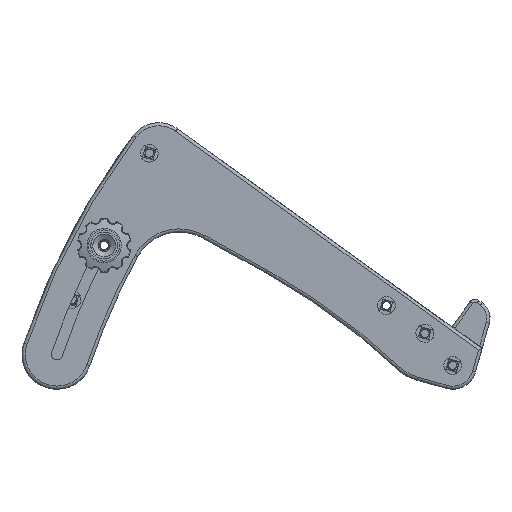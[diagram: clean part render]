
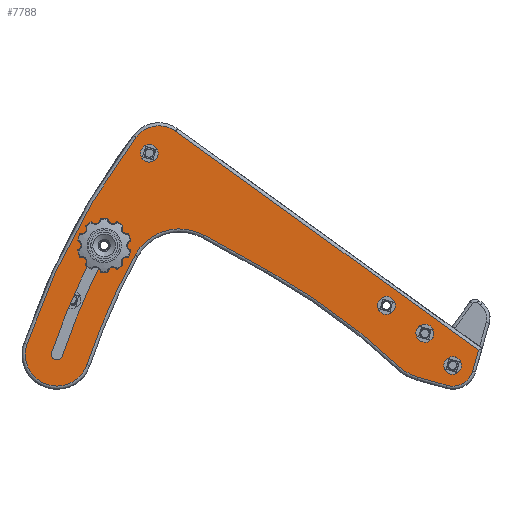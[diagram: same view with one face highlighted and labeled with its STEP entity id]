
A CAD part, left-side view. The second image highlights one B-rep face of the part: STEP entity #7788.
In plain terms, the highlighted planar face has unit normal (-1, 0, 0).
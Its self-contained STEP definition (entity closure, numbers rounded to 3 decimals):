
#233=FACE_BOUND('',#1056,.T.);
#234=FACE_BOUND('',#1057,.T.);
#235=FACE_BOUND('',#1058,.T.);
#236=FACE_BOUND('',#1059,.T.);
#237=FACE_BOUND('',#1060,.T.);
#280=PLANE('',#8334);
#557=FACE_OUTER_BOUND('',#1055,.T.);
#1055=EDGE_LOOP('',(#5308,#5309,#5310,#5311,#5312,#5313,#5314,#5315,#5316,
#5317,#5318,#5319));
#1056=EDGE_LOOP('',(#5320,#5321,#5322,#5323));
#1057=EDGE_LOOP('',(#5324));
#1058=EDGE_LOOP('',(#5325));
#1059=EDGE_LOOP('',(#5326));
#1060=EDGE_LOOP('',(#5327));
#1588=CIRCLE('',#8285,9.);
#1591=CIRCLE('',#8289,232.787);
#1594=CIRCLE('',#8293,10.);
#1597=CIRCLE('',#8297,212.787);
#1600=CIRCLE('',#8301,16.);
#1604=CIRCLE('',#8307,198.);
#1607=CIRCLE('',#8311,15.5);
#1611=CIRCLE('',#8317,6.5);
#1621=CIRCLE('',#8335,224.537);
#1622=CIRCLE('',#8336,1.75);
#1623=CIRCLE('',#8337,221.037);
#1624=CIRCLE('',#8338,1.75);
#1625=CIRCLE('',#8339,2.8);
#1626=CIRCLE('',#8340,2.8);
#1627=CIRCLE('',#8341,2.85);
#1628=CIRCLE('',#8342,2.85);
#2087=LINE('',#11826,#2698);
#2088=LINE('',#11862,#2699);
#2090=LINE('',#11880,#2701);
#2092=LINE('',#11889,#2703);
#2698=VECTOR('',#9263,10.);
#2699=VECTOR('',#9310,10.);
#2701=VECTOR('',#9332,10.);
#2703=VECTOR('',#9344,10.);
#3310=VERTEX_POINT('',#11823);
#3311=VERTEX_POINT('',#11825);
#3313=VERTEX_POINT('',#11830);
#3315=VERTEX_POINT('',#11836);
#3317=VERTEX_POINT('',#11842);
#3319=VERTEX_POINT('',#11848);
#3321=VERTEX_POINT('',#11854);
#3323=VERTEX_POINT('',#11860);
#3325=VERTEX_POINT('',#11866);
#3327=VERTEX_POINT('',#11872);
#3329=VERTEX_POINT('',#11878);
#3331=VERTEX_POINT('',#11884);
#3349=VERTEX_POINT('',#11938);
#3350=VERTEX_POINT('',#11939);
#3351=VERTEX_POINT('',#11941);
#3352=VERTEX_POINT('',#11943);
#3353=VERTEX_POINT('',#11946);
#3354=VERTEX_POINT('',#11948);
#3355=VERTEX_POINT('',#11950);
#3356=VERTEX_POINT('',#11952);
#4035=EDGE_CURVE('',#3310,#3311,#2087,.T.);
#4038=EDGE_CURVE('',#3313,#3310,#1588,.T.);
#4041=EDGE_CURVE('',#3315,#3313,#1591,.T.);
#4044=EDGE_CURVE('',#3317,#3315,#1594,.T.);
#4047=EDGE_CURVE('',#3319,#3317,#1597,.T.);
#4050=EDGE_CURVE('',#3321,#3319,#1600,.T.);
#4053=EDGE_CURVE('',#3323,#3321,#2088,.T.);
#4056=EDGE_CURVE('',#3325,#3323,#1604,.T.);
#4059=EDGE_CURVE('',#3327,#3325,#1607,.T.);
#4062=EDGE_CURVE('',#3329,#3327,#2090,.T.);
#4065=EDGE_CURVE('',#3331,#3329,#1611,.T.);
#4067=EDGE_CURVE('',#3311,#3331,#2092,.T.);
#4092=EDGE_CURVE('',#3349,#3350,#1621,.T.);
#4093=EDGE_CURVE('',#3351,#3350,#1622,.T.);
#4094=EDGE_CURVE('',#3351,#3352,#1623,.T.);
#4095=EDGE_CURVE('',#3352,#3349,#1624,.T.);
#4096=EDGE_CURVE('',#3353,#3353,#1625,.T.);
#4097=EDGE_CURVE('',#3354,#3354,#1626,.T.);
#4098=EDGE_CURVE('',#3355,#3355,#1627,.T.);
#4099=EDGE_CURVE('',#3356,#3356,#1628,.T.);
#5308=ORIENTED_EDGE('',*,*,#4035,.F.);
#5309=ORIENTED_EDGE('',*,*,#4038,.F.);
#5310=ORIENTED_EDGE('',*,*,#4041,.F.);
#5311=ORIENTED_EDGE('',*,*,#4044,.F.);
#5312=ORIENTED_EDGE('',*,*,#4047,.F.);
#5313=ORIENTED_EDGE('',*,*,#4050,.F.);
#5314=ORIENTED_EDGE('',*,*,#4053,.F.);
#5315=ORIENTED_EDGE('',*,*,#4056,.F.);
#5316=ORIENTED_EDGE('',*,*,#4059,.F.);
#5317=ORIENTED_EDGE('',*,*,#4062,.F.);
#5318=ORIENTED_EDGE('',*,*,#4065,.F.);
#5319=ORIENTED_EDGE('',*,*,#4067,.F.);
#5320=ORIENTED_EDGE('',*,*,#4092,.T.);
#5321=ORIENTED_EDGE('',*,*,#4093,.F.);
#5322=ORIENTED_EDGE('',*,*,#4094,.T.);
#5323=ORIENTED_EDGE('',*,*,#4095,.T.);
#5324=ORIENTED_EDGE('',*,*,#4096,.T.);
#5325=ORIENTED_EDGE('',*,*,#4097,.T.);
#5326=ORIENTED_EDGE('',*,*,#4098,.T.);
#5327=ORIENTED_EDGE('',*,*,#4099,.T.);
#7788=ADVANCED_FACE('',(#557,#233,#234,#235,#236,#237),#280,.F.);
#8285=AXIS2_PLACEMENT_3D('',#11832,#9270,#9271);
#8289=AXIS2_PLACEMENT_3D('',#11838,#9278,#9279);
#8293=AXIS2_PLACEMENT_3D('',#11844,#9286,#9287);
#8297=AXIS2_PLACEMENT_3D('',#11850,#9294,#9295);
#8301=AXIS2_PLACEMENT_3D('',#11856,#9302,#9303);
#8307=AXIS2_PLACEMENT_3D('',#11868,#9316,#9317);
#8311=AXIS2_PLACEMENT_3D('',#11874,#9324,#9325);
#8317=AXIS2_PLACEMENT_3D('',#11886,#9338,#9339);
#8334=AXIS2_PLACEMENT_3D('',#11937,#9389,#9390);
#8335=AXIS2_PLACEMENT_3D('',#11940,#9391,#9392);
#8336=AXIS2_PLACEMENT_3D('',#11942,#9393,#9394);
#8337=AXIS2_PLACEMENT_3D('',#11944,#9395,#9396);
#8338=AXIS2_PLACEMENT_3D('',#11945,#9397,#9398);
#8339=AXIS2_PLACEMENT_3D('',#11947,#9399,#9400);
#8340=AXIS2_PLACEMENT_3D('',#11949,#9401,#9402);
#8341=AXIS2_PLACEMENT_3D('',#11951,#9403,#9404);
#8342=AXIS2_PLACEMENT_3D('',#11953,#9405,#9406);
#9263=DIRECTION('',(0.,-0.811,-0.586));
#9270=DIRECTION('center_axis',(1.,0.,0.));
#9271=DIRECTION('ref_axis',(0.,0.15,0.989));
#9278=DIRECTION('center_axis',(1.,0.,0.));
#9279=DIRECTION('ref_axis',(0.,0.885,0.466));
#9286=DIRECTION('center_axis',(1.,0.,0.));
#9287=DIRECTION('ref_axis',(0.,0.32,-0.947));
#9294=DIRECTION('center_axis',(-1.,0.,0.));
#9295=DIRECTION('ref_axis',(0.,0.915,0.403));
#9302=DIRECTION('center_axis',(-1.,0.,0.));
#9303=DIRECTION('ref_axis',(0.,0.278,0.961));
#9310=DIRECTION('',(0.,0.876,0.483));
#9316=DIRECTION('center_axis',(-1.,0.,0.));
#9317=DIRECTION('ref_axis',(0.,-0.591,0.807));
#9324=DIRECTION('center_axis',(1.,0.,0.));
#9325=DIRECTION('ref_axis',(0.,0.496,-0.868));
#9332=DIRECTION('',(0.,0.962,0.273));
#9338=DIRECTION('center_axis',(1.,0.,0.));
#9339=DIRECTION('ref_axis',(0.,-0.487,-0.873));
#9344=DIRECTION('',(0.,0.273,-0.962));
#9389=DIRECTION('center_axis',(1.,0.,0.));
#9390=DIRECTION('ref_axis',(0.,0.962,0.273));
#9391=DIRECTION('center_axis',(1.,0.,0.));
#9392=DIRECTION('ref_axis',(0.,0.8,0.601));
#9393=DIRECTION('center_axis',(-1.,0.,0.));
#9394=DIRECTION('ref_axis',(0.,-0.962,-0.273));
#9395=DIRECTION('center_axis',(-1.,0.,0.));
#9396=DIRECTION('ref_axis',(0.,0.876,0.482));
#9397=DIRECTION('center_axis',(1.,0.,0.));
#9398=DIRECTION('ref_axis',(0.,0.947,0.32));
#9399=DIRECTION('center_axis',(1.,0.,0.));
#9400=DIRECTION('ref_axis',(0.,-0.962,-0.273));
#9401=DIRECTION('center_axis',(1.,0.,0.));
#9402=DIRECTION('ref_axis',(0.,-0.962,-0.273));
#9403=DIRECTION('center_axis',(1.,0.,0.));
#9404=DIRECTION('ref_axis',(0.,-0.962,-0.273));
#9405=DIRECTION('center_axis',(1.,0.,0.));
#9406=DIRECTION('ref_axis',(0.,-0.962,-0.273));
#11823=CARTESIAN_POINT('',(-99.,-40.985,81.378));
#11825=CARTESIAN_POINT('',(-99.,-136.549,12.348));
#11826=CARTESIAN_POINT('',(-99.,-174.959,-15.397));
#11830=CARTESIAN_POINT('',(-99.,-28.518,79.487));
#11832=CARTESIAN_POINT('Origin',(-99.,-35.715,74.082));
#11836=CARTESIAN_POINT('',(-99.,5.887,14.209));
#11838=CARTESIAN_POINT('Origin',(-99.,-214.648,-60.319));
#11842=CARTESIAN_POINT('',(-99.,-13.06,7.805));
#11844=CARTESIAN_POINT('Origin',(-99.,-3.587,11.007));
#11848=CARTESIAN_POINT('',(-99.,-28.246,42.311));
#11850=CARTESIAN_POINT('Origin',(-99.,-214.648,-60.319));
#11854=CARTESIAN_POINT('',(-99.,-49.993,48.603));
#11856=CARTESIAN_POINT('Origin',(-99.,-42.262,34.594));
#11860=CARTESIAN_POINT('',(-99.,-70.122,37.495));
#11862=CARTESIAN_POINT('',(-99.,-86.345,28.542));
#11866=CARTESIAN_POINT('',(-99.,-110.985,7.541));
#11868=CARTESIAN_POINT('Origin',(-99.,25.542,-135.862));
#11872=CARTESIAN_POINT('',(-99.,-117.442,3.856));
#11874=CARTESIAN_POINT('Origin',(-99.,-121.673,18.767));
#11878=CARTESIAN_POINT('',(-99.,-126.642,1.246));
#11880=CARTESIAN_POINT('',(-99.,-101.492,8.382));
#11884=CARTESIAN_POINT('',(-99.,-134.669,5.725));
#11886=CARTESIAN_POINT('Origin',(-99.,-128.416,7.499));
#11889=CARTESIAN_POINT('',(-99.,-132.622,-1.491));
#11937=CARTESIAN_POINT('Origin',(-99.,-133.584,-1.763));
#11938=CARTESIAN_POINT('',(-99.,-1.929,11.567));
#11939=CARTESIAN_POINT('',(-99.,-17.105,46.424));
#11940=CARTESIAN_POINT('Origin',(-99.,-214.648,-60.319));
#11941=CARTESIAN_POINT('',(-99.,-20.185,44.76));
#11942=CARTESIAN_POINT('Origin',(-99.,-18.645,45.592));
#11943=CARTESIAN_POINT('',(-99.,-5.245,10.447));
#11944=CARTESIAN_POINT('Origin',(-99.,-214.648,-60.319));
#11945=CARTESIAN_POINT('Origin',(-99.,-3.587,11.007));
#11946=CARTESIAN_POINT('',(-99.,-125.722,8.263));
#11947=CARTESIAN_POINT('Origin',(-99.,-128.416,7.499));
#11948=CARTESIAN_POINT('',(-99.,-30.05,75.222));
#11949=CARTESIAN_POINT('Origin',(-99.,-32.743,74.458));
#11950=CARTESIAN_POINT('',(-99.,-116.928,18.433));
#11951=CARTESIAN_POINT('Origin',(-99.,-119.669,17.655));
#11952=CARTESIAN_POINT('',(-99.,-104.76,27.205));
#11953=CARTESIAN_POINT('Origin',(-99.,-107.502,26.427));
